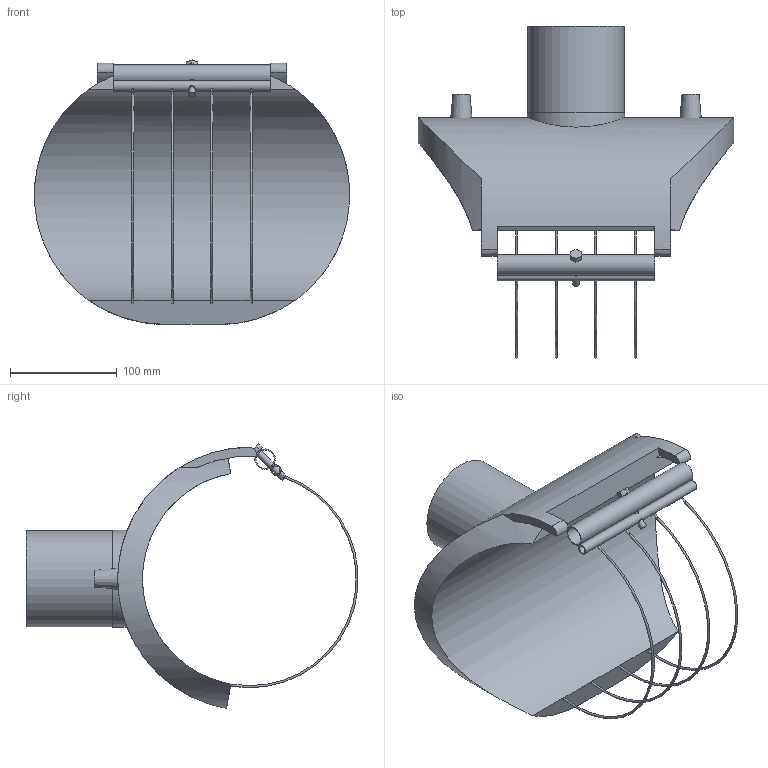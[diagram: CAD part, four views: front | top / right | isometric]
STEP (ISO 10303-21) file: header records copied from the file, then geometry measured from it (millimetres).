
FILE_DESCRIPTION(/* description */ ('Plasson Branch Saddle 200x90'),/* implementation_level */ '2;1');
FILE_NAME(/* name */ 'C:\Dropbox\KIMPROJECTS-Inventor 2019\99-16-3568-Processing\ElectroFusion Fittings\4958X4\4958X4200090T.stp',/* time_stamp */ '2025-05-07T12:15:24+03:00',/* author */ ('KIM'),/* organization */ (''),/* preprocessor_version */ 'ST-DEVELOPER v18.1',/* originating_system */ 'Autodesk Inventor 2021',/* authorisation */ '');
FILE_SCHEMA (('AUTOMOTIVE_DESIGN { 1 0 10303 214 3 1 1 }'));
Length unit declared in the file: millimetre
Products named in the file (1): 4958X4200090T
Bounding box: 295 x 310.7 x 247.76 mm (x, y, z)
Volume: 1961854.7 mm3; surface area: 264412 mm2
Topology: 1 solids, 1 shells, 63 faces, 174 edges, 113 vertices
Faces by surface type: cylinder 28, plane 25, torus 8, cone 2
Full cylindrical faces by diameter (mm): 6 x3, 7.6 x1, 8 x1, 16 x1, 17.2 x1, 73 x1, 90 x1, 91 x1
Entity records: 2913 total; most frequent: CARTESIAN_POINT 1244, ORIENTED_EDGE 352, DIRECTION 323, EDGE_CURVE 176, AXIS2_PLACEMENT_3D 131, VERTEX_POINT 113, EDGE_LOOP 83, FACE_OUTER_BOUND 63
